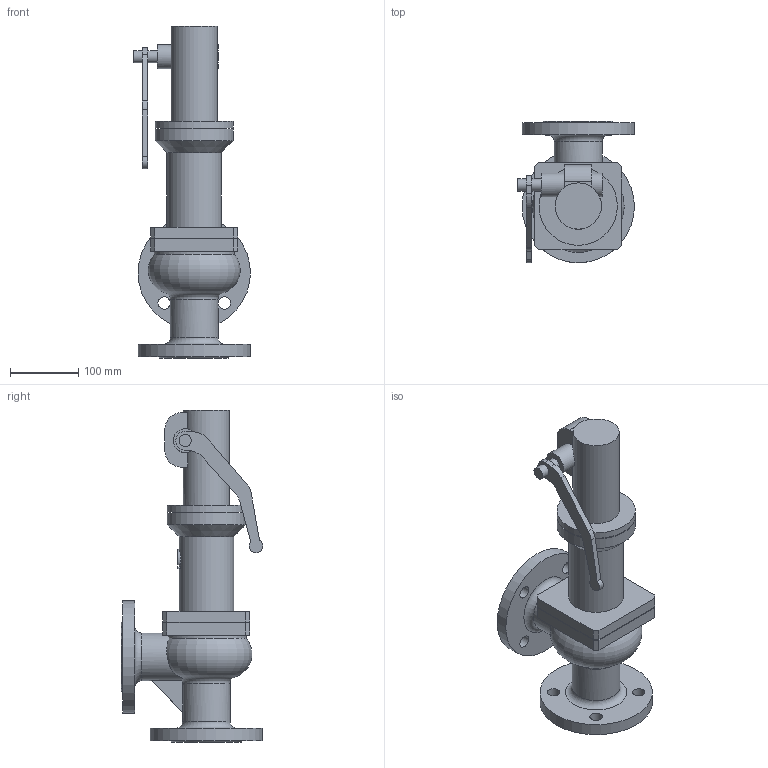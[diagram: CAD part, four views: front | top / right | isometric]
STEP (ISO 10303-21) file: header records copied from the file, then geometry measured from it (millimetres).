
FILE_DESCRIPTION(('STEP AP203'), '1');
FILE_NAME('Êëàïàí ïðåäîõðàíèòåëüíûé ñðåäíåïîäüåìíûé SV1F 50x50', '', ('UNSPECIFIED'), ('UNSPECIFIED'), 'ASCON STEP Converter 1.6', 'ASCON Math Kernel', '');
FILE_SCHEMA(('CONFIG_CONTROL_DESIGN'));
Length unit declared in the file: millimetre
Bounding box: 171.5 x 207.9 x 487.5 mm (x, y, z)
Volume: 3092436 mm3; surface area: 416157.4 mm2
Topology: 1 solids, 3 shells, 120 faces, 290 edges, 192 vertices
Faces by surface type: plane 68, cylinder 44, torus 5, cone 3
Full cylindrical faces by diameter (mm): 18 x10, 35 x2, 50 x3, 52 x1, 60 x1, 68 x1, 70 x2, 80 x1, 95 x1, 105 x1, 115 x2, 165 x2
Entity records: 5746 total; most frequent: CARTESIAN_POINT 2014, DIRECTION 562, ORIENTED_EDGE 508, EDGE_CURVE 254, AXIS2_PLACEMENT_3D 218, VERTEX_POINT 192, EDGE_LOOP 188, FACE_BOUND 129
